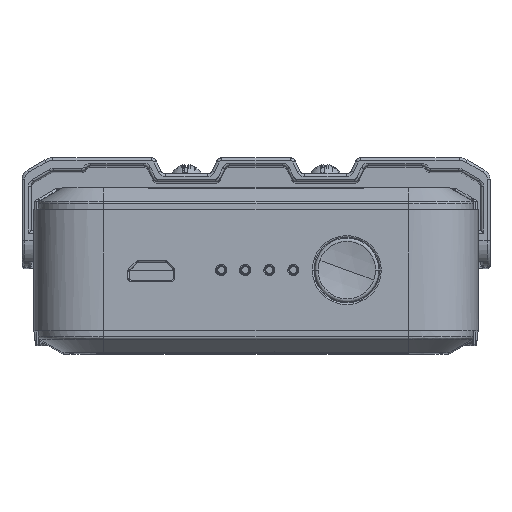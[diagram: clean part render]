
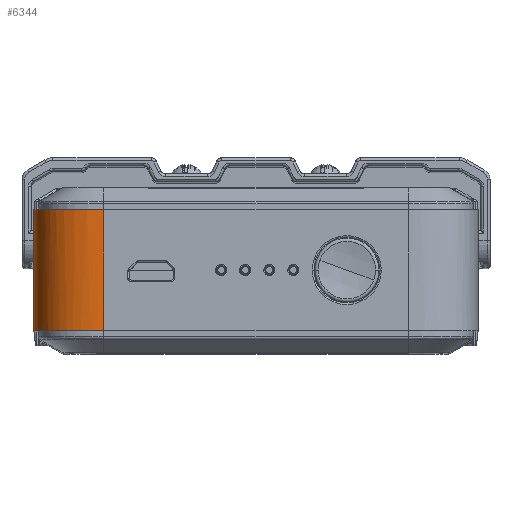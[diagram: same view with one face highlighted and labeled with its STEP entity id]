
A CAD part, top view. The second image highlights one B-rep face of the part: STEP entity #6344.
In plain terms, the highlighted free-form (B-spline) face has degree [3, 1] with [8, 2] control points.
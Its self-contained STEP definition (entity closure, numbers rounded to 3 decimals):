
#145 = CARTESIAN_POINT ( 'NONE',  ( -31.284, -5.492, 93.018 ) ) ;
#286 = EDGE_CURVE ( 'NONE', #25389, #41976, #42877, .T. ) ;
#535 = CARTESIAN_POINT ( 'NONE',  ( -27.843, -5.492, 98.559 ) ) ;
#746 = EDGE_LOOP ( 'NONE', ( #14220, #10992, #4337, #57876 ) ) ;
#1207 = CARTESIAN_POINT ( 'NONE',  ( -29.124, -28.092, 97.282 ) ) ;
#1585 = CARTESIAN_POINT ( 'NONE',  ( -29.661, -28.092, 96.576 ) ) ;
#3683 = CARTESIAN_POINT ( 'NONE',  ( -20.528, -5.492, 101.258 ) ) ;
#4140 = CARTESIAN_POINT ( 'NONE',  ( -31.869, -28.092, 88.208 ) ) ;
#4337 = ORIENTED_EDGE ( 'NONE', *, *, #32017, .F. ) ;
#4803 = CARTESIAN_POINT ( 'NONE',  ( -29.118, -5.492, 97.336 ) ) ;
#4995 = CARTESIAN_POINT ( 'NONE',  ( -31.869, -5.492, 88.208 ) ) ;
#5858 = CARTESIAN_POINT ( 'NONE',  ( -30.885, -28.092, 94.237 ) ) ;
#6344 = ADVANCED_FACE ( 'NONE', ( #51386 ), #31417, .F. ) ;
#6461 = VECTOR ( 'NONE', #50506, 1000. ) ;
#6471 = EDGE_CURVE ( 'NONE', #43920, #55100, #16712, .T. ) ;
#9113 = CARTESIAN_POINT ( 'NONE',  ( -31.395, -5.492, 92.586 ) ) ;
#9316 = CARTESIAN_POINT ( 'NONE',  ( -31.578, -5.492, 91.721 ) ) ;
#9496 = CARTESIAN_POINT ( 'NONE',  ( -31.869, -5.492, 89.095 ) ) ;
#9976 = CARTESIAN_POINT ( 'NONE',  ( -30.342, -28.092, 95.446 ) ) ;
#10165 = CARTESIAN_POINT ( 'NONE',  ( -30.538, -28.092, 95.051 ) ) ;
#10992 = ORIENTED_EDGE ( 'NONE', *, *, #6471, .T. ) ;
#11265 = LINE ( 'NONE', #40466, #14059 ) ;
#13582 = CARTESIAN_POINT ( 'NONE',  ( -24.796, -5.492, 100.315 ) ) ;
#13694 = DIRECTION ( 'NONE',  ( 0., -1., 0. ) ) ;
#14059 = VECTOR ( 'NONE', #13694, 1000. ) ;
#14171 = CARTESIAN_POINT ( 'NONE',  ( -26.004, -5.492, 99.772 ) ) ;
#14220 = ORIENTED_EDGE ( 'NONE', *, *, #30316, .T. ) ;
#14258 = CARTESIAN_POINT ( 'NONE',  ( -22.29, -28.092, 101.026 ) ) ;
#14654 = CARTESIAN_POINT ( 'NONE',  ( -23.165, -28.092, 100.844 ) ) ;
#16314 = CARTESIAN_POINT ( 'NONE',  ( -31.869, -5.492, 88.208 ) ) ;
#16712 = B_SPLINE_CURVE_WITH_KNOTS ( 'NONE', 3,
 ( #27354, #49068, #22282, #53554, #23845, #50809, #5858, #10165, #9976, #28493, #1585, #1207, #36906, #24028, #41419, #41025, #32813, #14654, #14258, #50035, #18770, #45915 ),
 .UNSPECIFIED., .F., .F.,
 ( 4, 2, 2, 2, 2, 2, 2, 2, 2, 2, 4 ),
 ( 0., 0.003, 0.005, 0.007, 0.008, 0.009, 0.01, 0.013, 0.016, 0.018, 0.021 ),
 .UNSPECIFIED. ) ;
#16878 = CARTESIAN_POINT ( 'NONE',  ( -30.248, -5.492, 95.882 ) ) ;
#18014 = CARTESIAN_POINT ( 'NONE',  ( -31.869, -28.092, 88.208 ) ) ;
#18111 = CARTESIAN_POINT ( 'NONE',  ( -31.82, -5.492, 89.976 ) ) ;
#18303 = CARTESIAN_POINT ( 'NONE',  ( -26.767, -5.492, 99.335 ) ) ;
#18690 = CARTESIAN_POINT ( 'NONE',  ( -23.114, -5.492, 100.856 ) ) ;
#18770 = CARTESIAN_POINT ( 'NONE',  ( -19.656, -28.092, 101.308 ) ) ;
#21624 = CARTESIAN_POINT ( 'NONE',  ( -22.259, -5.492, 101.032 ) ) ;
#22282 = CARTESIAN_POINT ( 'NONE',  ( -31.821, -28.092, 89.968 ) ) ;
#22390 = CARTESIAN_POINT ( 'NONE',  ( -25.61, -5.492, 99.967 ) ) ;
#23723 = CARTESIAN_POINT ( 'NONE',  ( -31.869, -5.292, 88.208 ) ) ;
#23845 = CARTESIAN_POINT ( 'NONE',  ( -31.425, -28.092, 92.554 ) ) ;
#24028 = CARTESIAN_POINT ( 'NONE',  ( -27.896, -28.092, 98.553 ) ) ;
#25389 = VERTEX_POINT ( 'NONE', #33439 ) ;
#26582 = CARTESIAN_POINT ( 'NONE',  ( -31.869, -28.092, 90.551 ) ) ;
#26694 = CARTESIAN_POINT ( 'NONE',  ( -30.89, -5.492, 94.286 ) ) ;
#27354 = CARTESIAN_POINT ( 'NONE',  ( -31.869, -28.092, 88.208 ) ) ;
#28493 = CARTESIAN_POINT ( 'NONE',  ( -29.904, -28.092, 96.208 ) ) ;
#30316 = EDGE_CURVE ( 'NONE', #41976, #43920, #51214, .T. ) ;
#30446 = CARTESIAN_POINT ( 'NONE',  ( -19.653, -5.492, 101.308 ) ) ;
#30895 = CARTESIAN_POINT ( 'NONE',  ( -29.317, -5.492, 97.23 ) ) ;
#31079 = CARTESIAN_POINT ( 'NONE',  ( -31.869, -5.492, 88.208 ) ) ;
#31417 = B_SPLINE_SURFACE_WITH_KNOTS ( 'NONE', 3, 1, ( 
 ( #31079, #4140 ),
 ( #39496, #26582 ),
 ( #43588, #35372 ),
 ( #16878, #52619 ),
 ( #30895, #52992 ),
 ( #57867, #57684 ),
 ( #34799, #48316 ),
 ( #57505, #39115 ) ),
 .UNSPECIFIED., .F., .F., .F.,
 ( 4, 2, 2, 4 ),
 ( 2, 2 ),
 ( 0., 0.25, 0.5, 1. ),
 ( 0., 1. ),
 .UNSPECIFIED. ) ;
#32017 = EDGE_CURVE ( 'NONE', #25389, #55100, #11265, .T. ) ;
#32813 = CARTESIAN_POINT ( 'NONE',  ( -24.843, -28.092, 100.319 ) ) ;
#33439 = CARTESIAN_POINT ( 'NONE',  ( -18.769, -5.492, 101.308 ) ) ;
#34799 = CARTESIAN_POINT ( 'NONE',  ( -22.535, -5.492, 101.308 ) ) ;
#35372 = CARTESIAN_POINT ( 'NONE',  ( -31.524, -28.092, 92.543 ) ) ;
#35667 = CARTESIAN_POINT ( 'NONE',  ( -27.135, -5.492, 99.094 ) ) ;
#35865 = CARTESIAN_POINT ( 'NONE',  ( -29.653, -5.492, 96.638 ) ) ;
#36906 = CARTESIAN_POINT ( 'NONE',  ( -28.83, -28.092, 97.619 ) ) ;
#37232 = CARTESIAN_POINT ( 'NONE',  ( -18.769, -28.092, 101.308 ) ) ;
#39115 = CARTESIAN_POINT ( 'NONE',  ( -18.769, -28.092, 101.308 ) ) ;
#39496 = CARTESIAN_POINT ( 'NONE',  ( -31.869, -5.492, 90.551 ) ) ;
#40369 = CARTESIAN_POINT ( 'NONE',  ( -28.181, -5.492, 98.267 ) ) ;
#40466 = CARTESIAN_POINT ( 'NONE',  ( -18.769, -5.292, 101.308 ) ) ;
#41025 = CARTESIAN_POINT ( 'NONE',  ( -25.653, -28.092, 99.977 ) ) ;
#41419 = CARTESIAN_POINT ( 'NONE',  ( -27.194, -28.092, 99.087 ) ) ;
#41976 = VERTEX_POINT ( 'NONE', #16314 ) ;
#42877 = B_SPLINE_CURVE_WITH_KNOTS ( 'NONE', 3,
 ( #52720, #30446, #3683, #21624, #18690, #49948, #13582, #22390, #14171, #18303, #35667, #535, #40369, #4803, #35865, #53665, #26694, #145, #9113, #9316, #54249, #18111, #9496, #4995 ),
 .UNSPECIFIED., .F., .F.,
 ( 4, 2, 2, 2, 2, 2, 2, 2, 2, 2, 2, 4 ),
 ( 0., 0.003, 0.005, 0.007, 0.008, 0.009, 0.01, 0.013, 0.016, 0.017, 0.018, 0.021 ),
 .UNSPECIFIED. ) ;
#43588 = CARTESIAN_POINT ( 'NONE',  ( -31.524, -5.492, 92.543 ) ) ;
#43920 = VERTEX_POINT ( 'NONE', #18014 ) ;
#45915 = CARTESIAN_POINT ( 'NONE',  ( -18.769, -28.092, 101.308 ) ) ;
#48316 = CARTESIAN_POINT ( 'NONE',  ( -22.535, -28.092, 101.308 ) ) ;
#49068 = CARTESIAN_POINT ( 'NONE',  ( -31.869, -28.092, 89.092 ) ) ;
#49948 = CARTESIAN_POINT ( 'NONE',  ( -24.376, -5.492, 100.467 ) ) ;
#50035 = CARTESIAN_POINT ( 'NONE',  ( -20.538, -28.092, 101.257 ) ) ;
#50506 = DIRECTION ( 'NONE',  ( 0., -1., 0. ) ) ;
#50809 = CARTESIAN_POINT ( 'NONE',  ( -31.037, -28.092, 93.817 ) ) ;
#51214 = LINE ( 'NONE', #23723, #6461 ) ;
#51386 = FACE_OUTER_BOUND ( 'NONE', #746, .T. ) ;
#52619 = CARTESIAN_POINT ( 'NONE',  ( -30.248, -28.092, 95.882 ) ) ;
#52720 = CARTESIAN_POINT ( 'NONE',  ( -18.769, -5.492, 101.308 ) ) ;
#52992 = CARTESIAN_POINT ( 'NONE',  ( -29.317, -28.092, 97.23 ) ) ;
#53554 = CARTESIAN_POINT ( 'NONE',  ( -31.598, -28.092, 91.699 ) ) ;
#53665 = CARTESIAN_POINT ( 'NONE',  ( -30.547, -5.492, 95.098 ) ) ;
#54249 = CARTESIAN_POINT ( 'NONE',  ( -31.651, -5.492, 91.286 ) ) ;
#55100 = VERTEX_POINT ( 'NONE', #37232 ) ;
#57505 = CARTESIAN_POINT ( 'NONE',  ( -18.769, -5.492, 101.308 ) ) ;
#57684 = CARTESIAN_POINT ( 'NONE',  ( -25.812, -28.092, 100.387 ) ) ;
#57867 = CARTESIAN_POINT ( 'NONE',  ( -25.812, -5.492, 100.387 ) ) ;
#57876 = ORIENTED_EDGE ( 'NONE', *, *, #286, .T. ) ;
